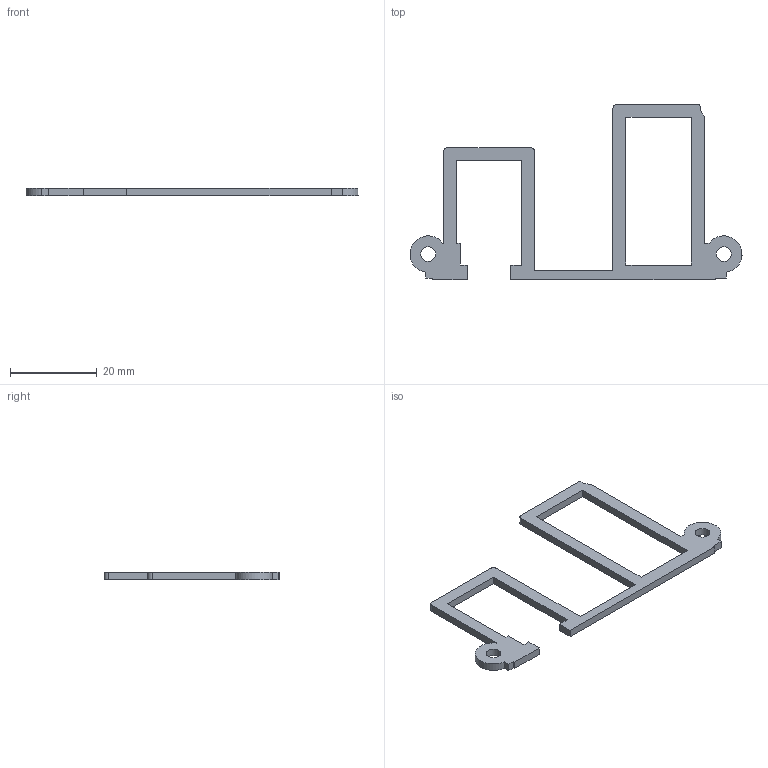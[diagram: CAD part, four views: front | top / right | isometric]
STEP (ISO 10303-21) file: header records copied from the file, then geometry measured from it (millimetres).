
FILE_DESCRIPTION(('Open CASCADE Model'),'2;1');
FILE_NAME('Open CASCADE Shape Model','2026-10-01T12:35:22',('Author'),( 'Open CASCADE'),'Open CASCADE STEP processor 7.8','Open CASCADE 7.8' ,'Unknown');
FILE_SCHEMA(('AUTOMOTIVE_DESIGN { 1 0 10303 214 1 1 1 1 }'));
Length unit declared in the file: millimetre
Products named in the file (2): P08_Power_board_retainer; P08_Power_board_retainer_solid
Assembly tree (1 placements, depth 2):
  P08_Power_board_retainer
    P08_Power_board_retainer_solid
Bounding box: 76.38 x 40.4 x 1.8 mm (x, y, z)
Volume: 1326.9 mm3; surface area: 2319.4 mm2
Topology: 1 solids, 1 shells, 40 faces, 114 edges, 76 vertices
Faces by surface type: plane 32, cylinder 8
Full cylindrical faces by diameter (mm): 3.4 x2
Entity records: 2794 total; most frequent: CARTESIAN_POINT 554, DIRECTION 383, LINE 258, VECTOR 258, ORIENTED_EDGE 228, PCURVE 228, DEFINITIONAL_REPRESENTATION 228, EDGE_CURVE 114
